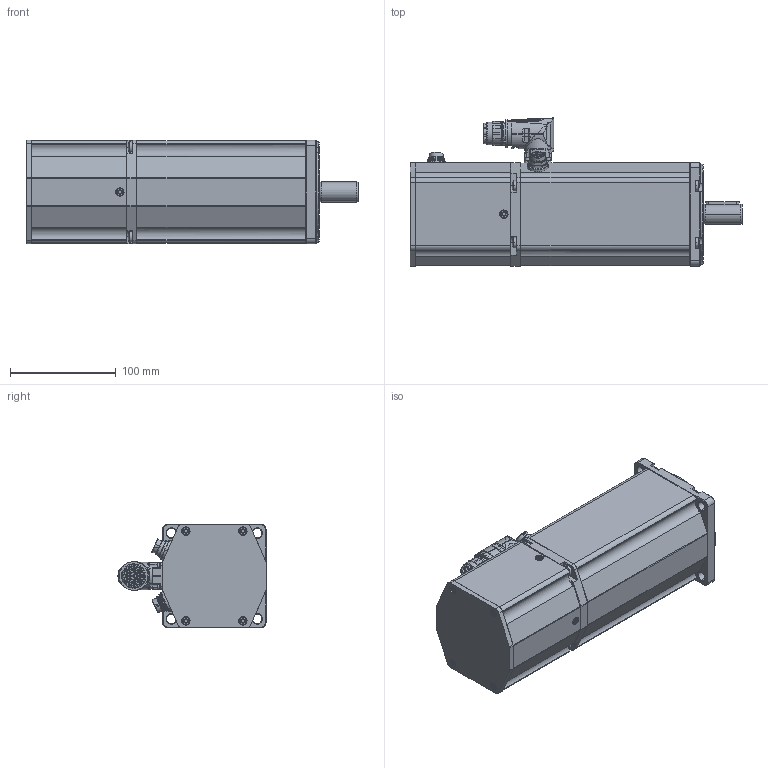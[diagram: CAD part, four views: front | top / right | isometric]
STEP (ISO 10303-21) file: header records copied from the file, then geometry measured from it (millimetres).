
FILE_DESCRIPTION((''),'2;1');
FILE_NAME('9659503199_SW0001','2018-10-05T',('HMeister'),(''),'CREO PARAMETRIC BY PTC INC, 2016050','CREO PARAMETRIC BY PTC INC, 2016050','');
FILE_SCHEMA(('CONFIG_CONTROL_DESIGN'));
Products named in the file (1): 9659503199_SW0001
Bounding box: 314.5 x 140.3 x 98 mm (x, y, z)
Volume: 949598 mm3; surface area: 272466.1 mm2
Topology: 3 solids, 7 shells, 2282 faces, 5605 edges, 3465 vertices
Faces by surface type: cylinder 900, plane 561, cone 338, torus 271, bspline 176, sphere 36
Entity records: 79153 total; most frequent: CARTESIAN_POINT 25603, DIRECTION 11528, ORIENTED_EDGE 11098, EDGE_CURVE 5549, AXIS2_PLACEMENT_3D 4736, VERTEX_POINT 3462, CIRCLE 2629, EDGE_LOOP 2497
